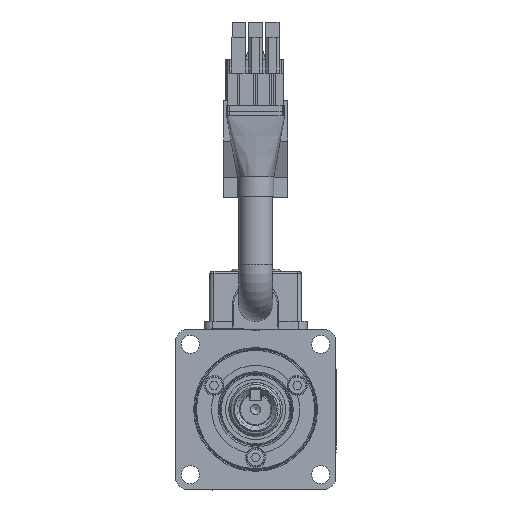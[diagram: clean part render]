
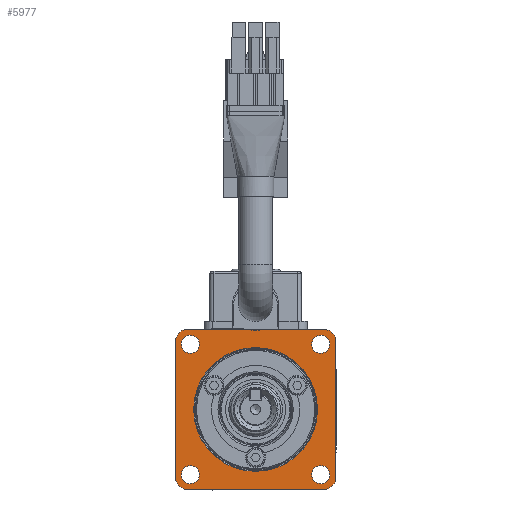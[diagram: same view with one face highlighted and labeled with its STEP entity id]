
A CAD part, left-side view. The second image highlights one B-rep face of the part: STEP entity #5977.
In plain terms, the highlighted planar face has unit normal (-1, 0, 0) as drawn and (0, -1, 0) by its records, which use the part's own axes.
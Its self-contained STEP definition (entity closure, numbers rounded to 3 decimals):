
#5977 = ADVANCED_FACE( '', ( #12011, #12012, #12013, #12014, #12015, #12016 ), #12017, .T. );
#12011 = FACE_BOUND( '', #21981, .T. );
#12012 = FACE_OUTER_BOUND( '', #21982, .T. );
#12013 = FACE_BOUND( '', #21983, .T. );
#12014 = FACE_BOUND( '', #21984, .T. );
#12015 = FACE_BOUND( '', #21985, .T. );
#12016 = FACE_BOUND( '', #21986, .T. );
#12017 = PLANE( '', #21987 );
#21981 = EDGE_LOOP( '', ( #37881 ) );
#21982 = EDGE_LOOP( '', ( #37882, #37883, #37884, #37885, #37886, #37887, #37888, #37889 ) );
#21983 = EDGE_LOOP( '', ( #37890 ) );
#21984 = EDGE_LOOP( '', ( #37891 ) );
#21985 = EDGE_LOOP( '', ( #37892 ) );
#21986 = EDGE_LOOP( '', ( #37893 ) );
#21987 = AXIS2_PLACEMENT_3D( '', #37894, #37895, #37896 );
#37881 = ORIENTED_EDGE( '', *, *, #42098, .T. );
#37882 = ORIENTED_EDGE( '', *, *, #42406, .F. );
#37883 = ORIENTED_EDGE( '', *, *, #45457, .T. );
#37884 = ORIENTED_EDGE( '', *, *, #44041, .F. );
#37885 = ORIENTED_EDGE( '', *, *, #45850, .T. );
#37886 = ORIENTED_EDGE( '', *, *, #46012, .F. );
#37887 = ORIENTED_EDGE( '', *, *, #40702, .F. );
#37888 = ORIENTED_EDGE( '', *, *, #46013, .F. );
#37889 = ORIENTED_EDGE( '', *, *, #46014, .T. );
#37890 = ORIENTED_EDGE( '', *, *, #41124, .F. );
#37891 = ORIENTED_EDGE( '', *, *, #40891, .F. );
#37892 = ORIENTED_EDGE( '', *, *, #40157, .F. );
#37893 = ORIENTED_EDGE( '', *, *, #43134, .F. );
#37894 = CARTESIAN_POINT( '', ( 0., 0.5, 15.5 ) );
#37895 = DIRECTION( '', ( 0., -1., 0. ) );
#37896 = DIRECTION( '', ( 0., 0., -1. ) );
#40157 = EDGE_CURVE( '', #47367, #47367, #47368, .F. );
#40702 = EDGE_CURVE( '', #48340, #48342, #48343, .T. );
#40891 = EDGE_CURVE( '', #48676, #48676, #48677, .F. );
#41124 = EDGE_CURVE( '', #49070, #49070, #49071, .F. );
#42098 = EDGE_CURVE( '', #50736, #50736, #50737, .F. );
#42406 = EDGE_CURVE( '', #51250, #51252, #51253, .F. );
#43134 = EDGE_CURVE( '', #52372, #52372, #52373, .F. );
#44041 = EDGE_CURVE( '', #53676, #53679, #53680, .F. );
#45457 = EDGE_CURVE( '', #51250, #53679, #55500, .T. );
#45850 = EDGE_CURVE( '', #53676, #55940, #55942, .T. );
#46012 = EDGE_CURVE( '', #48342, #55940, #56117, .F. );
#46013 = EDGE_CURVE( '', #56118, #48340, #56119, .F. );
#46014 = EDGE_CURVE( '', #56118, #51252, #56120, .T. );
#47367 = VERTEX_POINT( '', #56854 );
#47368 = CIRCLE( '', #56855, 2.25 );
#48340 = VERTEX_POINT( '', #58553 );
#48342 = VERTEX_POINT( '', #58556 );
#48343 = LINE( '', #58557, #58558 );
#48676 = VERTEX_POINT( '', #59097 );
#48677 = CIRCLE( '', #59098, 2.25 );
#49070 = VERTEX_POINT( '', #59777 );
#49071 = CIRCLE( '', #59778, 2.25 );
#50736 = VERTEX_POINT( '', #62928 );
#50737 = CIRCLE( '', #62929, 15.45 );
#51250 = VERTEX_POINT( '', #63815 );
#51252 = VERTEX_POINT( '', #63818 );
#51253 = CIRCLE( '', #63819, 3. );
#52372 = VERTEX_POINT( '', #65653 );
#52373 = CIRCLE( '', #65654, 2.25 );
#53676 = VERTEX_POINT( '', #67913 );
#53679 = VERTEX_POINT( '', #67917 );
#53680 = CIRCLE( '', #67918, 3. );
#55500 = LINE( '', #71005, #71006 );
#55940 = VERTEX_POINT( '', #71722 );
#55942 = LINE( '', #71725, #71726 );
#56117 = CIRCLE( '', #71962, 3. );
#56118 = VERTEX_POINT( '', #71963 );
#56119 = CIRCLE( '', #71964, 3. );
#56120 = LINE( '', #71965, #71966 );
#56854 = CARTESIAN_POINT( '', ( -16.263, 0.5, -14.013 ) );
#56855 = AXIS2_PLACEMENT_3D( '', #72781, #72782, #72783 );
#58553 = CARTESIAN_POINT( '', ( 17., 0.5, -20. ) );
#58556 = CARTESIAN_POINT( '', ( -17., 0.5, -20. ) );
#58557 = CARTESIAN_POINT( '', ( -20., 0.5, -20. ) );
#58558 = VECTOR( '', #73369, 1000. );
#59097 = CARTESIAN_POINT( '', ( 16.263, 0.5, -14.013 ) );
#59098 = AXIS2_PLACEMENT_3D( '', #73584, #73585, #73586 );
#59777 = CARTESIAN_POINT( '', ( 16.263, 0.5, 18.513 ) );
#59778 = AXIS2_PLACEMENT_3D( '', #73820, #73821, #73822 );
#62928 = CARTESIAN_POINT( '', ( 0., 0.5, -15.45 ) );
#62929 = AXIS2_PLACEMENT_3D( '', #74898, #74899, #74900 );
#63815 = CARTESIAN_POINT( '', ( 17., 0.5, 20. ) );
#63818 = CARTESIAN_POINT( '', ( 20., 0.5, 17. ) );
#63819 = AXIS2_PLACEMENT_3D( '', #75247, #75248, #75249 );
#65653 = CARTESIAN_POINT( '', ( -16.263, 0.5, 18.513 ) );
#65654 = AXIS2_PLACEMENT_3D( '', #76102, #76103, #76104 );
#67913 = CARTESIAN_POINT( '', ( -20., 0.5, 17. ) );
#67917 = CARTESIAN_POINT( '', ( -17., 0.5, 20. ) );
#67918 = AXIS2_PLACEMENT_3D( '', #77038, #77039, #77040 );
#71005 = CARTESIAN_POINT( '', ( 20., 0.5, 20. ) );
#71006 = VECTOR( '', #78353, 1000. );
#71722 = CARTESIAN_POINT( '', ( -20., 0.5, -17. ) );
#71725 = CARTESIAN_POINT( '', ( -20., 0.5, 20. ) );
#71726 = VECTOR( '', #78614, 1000. );
#71962 = AXIS2_PLACEMENT_3D( '', #78706, #78707, #78708 );
#71963 = CARTESIAN_POINT( '', ( 20., 0.5, -17. ) );
#71964 = AXIS2_PLACEMENT_3D( '', #78709, #78710, #78711 );
#71965 = CARTESIAN_POINT( '', ( 20., 0.5, -20. ) );
#71966 = VECTOR( '', #78712, 1000. );
#72781 = CARTESIAN_POINT( '', ( -16.263, 0.5, -16.263 ) );
#72782 = DIRECTION( '', ( 0., 1., 0. ) );
#72783 = DIRECTION( '', ( 0., 0., 1. ) );
#73369 = DIRECTION( '', ( -1., 0., 0. ) );
#73584 = CARTESIAN_POINT( '', ( 16.263, 0.5, -16.263 ) );
#73585 = DIRECTION( '', ( 0., 1., 0. ) );
#73586 = DIRECTION( '', ( 0., 0., 1. ) );
#73820 = CARTESIAN_POINT( '', ( 16.263, 0.5, 16.263 ) );
#73821 = DIRECTION( '', ( 0., 1., 0. ) );
#73822 = DIRECTION( '', ( 0., 0., 1. ) );
#74898 = CARTESIAN_POINT( '', ( 0., 0.5, 0. ) );
#74899 = DIRECTION( '', ( 0., -1., 0. ) );
#74900 = DIRECTION( '', ( 0., 0., -1. ) );
#75247 = CARTESIAN_POINT( '', ( 17., 0.5, 17. ) );
#75248 = DIRECTION( '', ( 0., -1., 0. ) );
#75249 = DIRECTION( '', ( 0., 0., -1. ) );
#76102 = CARTESIAN_POINT( '', ( -16.263, 0.5, 16.263 ) );
#76103 = DIRECTION( '', ( 0., 1., 0. ) );
#76104 = DIRECTION( '', ( 0., 0., 1. ) );
#77038 = CARTESIAN_POINT( '', ( -17., 0.5, 17. ) );
#77039 = DIRECTION( '', ( 0., -1., 0. ) );
#77040 = DIRECTION( '', ( 0., 0., -1. ) );
#78353 = DIRECTION( '', ( -1., 0., 0. ) );
#78614 = DIRECTION( '', ( 0., 0., -1. ) );
#78706 = CARTESIAN_POINT( '', ( -17., 0.5, -17. ) );
#78707 = DIRECTION( '', ( 0., -1., 0. ) );
#78708 = DIRECTION( '', ( 0., 0., -1. ) );
#78709 = CARTESIAN_POINT( '', ( 17., 0.5, -17. ) );
#78710 = DIRECTION( '', ( 0., -1., 0. ) );
#78711 = DIRECTION( '', ( 0., 0., -1. ) );
#78712 = DIRECTION( '', ( 0., 0., 1. ) );
